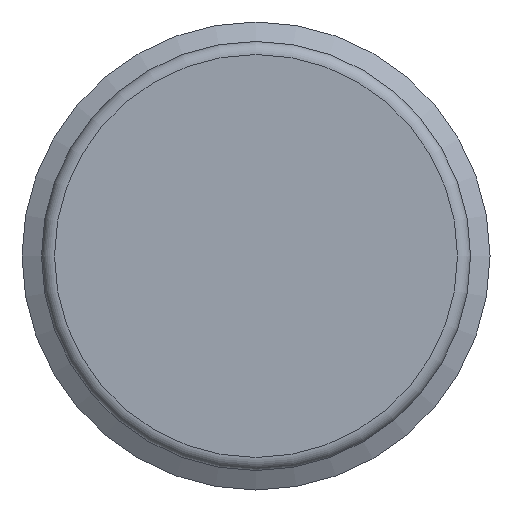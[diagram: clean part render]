
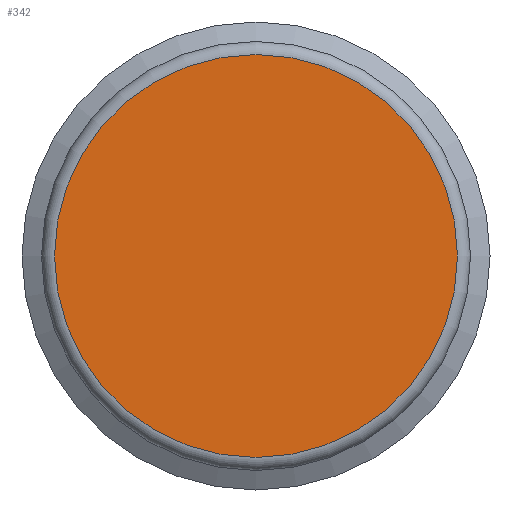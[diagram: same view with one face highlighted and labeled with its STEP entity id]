
A CAD part, front view. The second image highlights one B-rep face of the part: STEP entity #342.
In plain terms, the highlighted planar face has unit normal (0, -1, 0).
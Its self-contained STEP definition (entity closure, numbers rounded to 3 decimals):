
#206=FACE_OUTER_BOUND('',#732,.T.);
#342=ADVANCED_FACE('',(#206),#486,.T.);
#486=PLANE('',#2857);
#602=CIRCLE('',#2823,7.75);
#732=EDGE_LOOP('',(#1106));
#1106=ORIENTED_EDGE('',*,*,#2057,.T.);
#1786=VERTEX_POINT('',#3884);
#2057=EDGE_CURVE('',#1786,#1786,#602,.T.);
#2823=AXIS2_PLACEMENT_3D('',#3883,#3136,#3137);
#2857=AXIS2_PLACEMENT_3D('',#4746,#3233,#3234);
#3136=DIRECTION('',(0.,-1.,0.));
#3137=DIRECTION('',(0.,0.,-1.));
#3233=DIRECTION('',(0.,-1.,0.));
#3234=DIRECTION('',(1.,0.,0.));
#3883=CARTESIAN_POINT('',(0.,-50.,0.));
#3884=CARTESIAN_POINT('',(0.,-50.,-7.75));
#4746=CARTESIAN_POINT('',(0.,-50.,0.));
